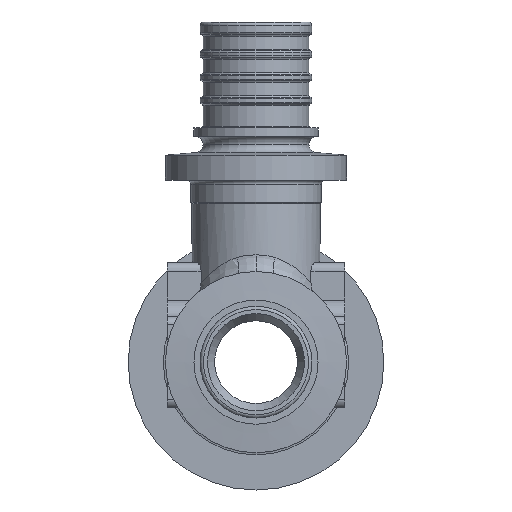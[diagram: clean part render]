
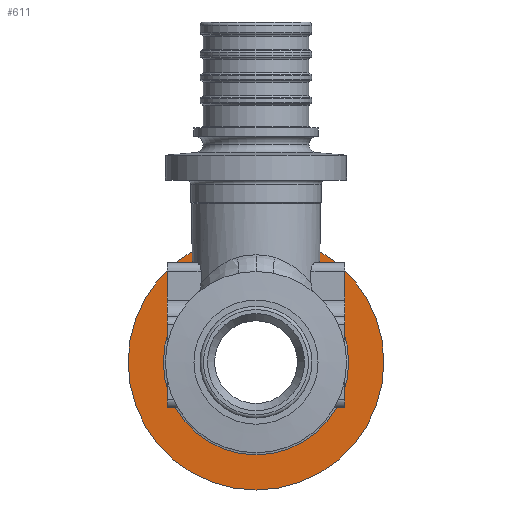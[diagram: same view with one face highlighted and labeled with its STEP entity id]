
A CAD part, front view. The second image highlights one B-rep face of the part: STEP entity #611.
In plain terms, the highlighted planar face has unit normal (0, -1, 0).
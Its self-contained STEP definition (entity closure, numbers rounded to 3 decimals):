
#611=ADVANCED_FACE('',(#4240,#4242),#4244,.F.);
#4240=FACE_BOUND('',#4241,.T.);
#4241=EDGE_LOOP('',(#7180));
#4242=FACE_BOUND('',#4243,.T.);
#4243=EDGE_LOOP('',(#7181));
#4244=PLANE('',#4245);
#4245=AXIS2_PLACEMENT_3D('',#4246,#4247,#4248);
#4246=CARTESIAN_POINT('',(0.,19.,0.));
#4247=DIRECTION('',(0.,1.,0.));
#4248=DIRECTION('',(-1.,0.,0.));
#7180=ORIENTED_EDGE('',*,*,#9416,.F.);
#7181=ORIENTED_EDGE('',*,*,#9420,.F.);
#9416=EDGE_CURVE('',#10435,#10435,#10436,.T.);
#9420=EDGE_CURVE('',#10443,#10443,#10444,.T.);
#10435=VERTEX_POINT('',#12510);
#10436=CIRCLE('',#12511,15.45);
#10443=VERTEX_POINT('',#12530);
#10444=CIRCLE('',#12531,11.2);
#12510=CARTESIAN_POINT('',(-15.45,19.,0.));
#12511=AXIS2_PLACEMENT_3D('',#12512,#12513,#12514);
#12512=CARTESIAN_POINT('',(0.,19.,0.));
#12513=DIRECTION('',(0.,1.,0.));
#12514=DIRECTION('',(-1.,0.,0.));
#12530=CARTESIAN_POINT('',(0.,19.,11.2));
#12531=AXIS2_PLACEMENT_3D('',#12532,#12533,#12534);
#12532=CARTESIAN_POINT('',(0.,19.,0.));
#12533=DIRECTION('',(0.,-1.,0.));
#12534=DIRECTION('',(0.,0.,1.));
